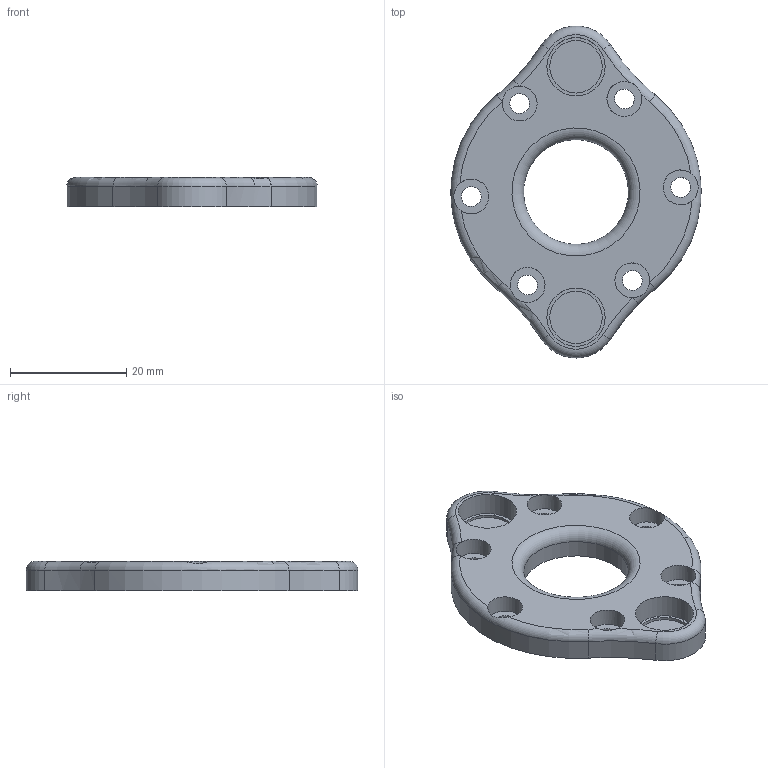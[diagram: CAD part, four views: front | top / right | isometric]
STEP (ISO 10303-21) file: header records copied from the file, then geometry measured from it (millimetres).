
FILE_DESCRIPTION(/* description */ (''),/* implementation_level */ '2;1');
FILE_NAME(/* name */ 'Acuator Host-Join-3.step',/* time_stamp */ '2026-09-18T19:38:41+10:00',/* author */ (''),/* organization */ (''),/* preprocessor_version */ 'ST-DEVELOPER v20.2',/* originating_system */ 'Autodesk Translation Framework v15.15.0.0',/* authorisation */ '');
FILE_SCHEMA (('AUTOMOTIVE_DESIGN { 1 0 10303 214 3 1 1 }'));
Length unit declared in the file: millimetre
Products named in the file (1): Acuator Host-Join
Bounding box: 42.95 x 57 x 5 mm (x, y, z)
Volume: 5533.9 mm3; surface area: 4311.6 mm2
Topology: 1 solids, 1 shells, 50 faces, 120 edges, 76 vertices
Faces by surface type: cylinder 25, torus 13, plane 12
Full cylindrical faces by diameter (mm): 3.4 x6, 6 x6, 9 x2, 10 x2, 18 x1
Entity records: 1601 total; most frequent: CARTESIAN_POINT 325, DIRECTION 297, ORIENTED_EDGE 240, AXIS2_PLACEMENT_3D 136, EDGE_CURVE 120, CIRCLE 85, VERTEX_POINT 76, EDGE_LOOP 68
